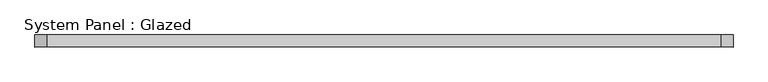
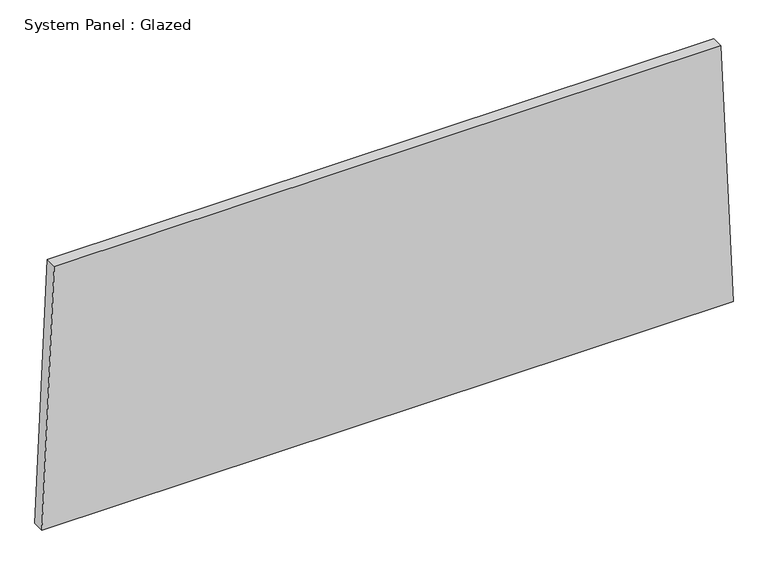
"""IFC4 building model written with IfcOpenShell, lengths in millimetres: plate geometry, System Panel : Glazed."""

from ifc_helpers import new_model, si_unit, frame, origin, place, context, project, spatial, polyline, outline, extrude, source, transform, mapped, element, save


def system_panel_glazed_2d21b99e(model_context):
    return source(origin(), model_context, "Body", "SweptSolid", [
        extrude(outline(polyline([(0.0, -734.2808367), (0.0, 734.2808367), (583.5928452, 708.2146929), (583.5928452, -708.2146929), (0.0, -734.2808367)])), frame((0.0, -44.45, 0.0), z_axis=(0.0, 1.0, 0.0), x_axis=(0.0, 0.0, 1.0)), (0.0, 0.0, 1.0), 25.4),
    ])


if __name__ == "__main__":
    model = new_model("IFC4")
    model_context = context("Model", 3, world=origin())
    ifc_project = project(units=[si_unit("LENGTHUNIT", "METRE", prefix="MILLI")], contexts=[model_context])
    site = spatial("IfcSite", under=ifc_project)
    building = spatial("IfcBuilding", under=site)
    placement = place(None, origin())
    system_panel_glazed_shape = system_panel_glazed_2d21b99e(model_context)
    element("IfcPlate", 1, ObjectType="System Panel : Glazed", at=placement, inside=building, context=model_context, shape_type="MappedRepresentation", body=[
        mapped(system_panel_glazed_shape, transform((0.0, 0.0, 0.0), x_axis=(1.0, 0.0, 0.0), y_axis=(0.0, 1.0, 0.0), z_axis=(0.0, 0.0, 1.0))),
    ])
    save(model, "model.ifc")
